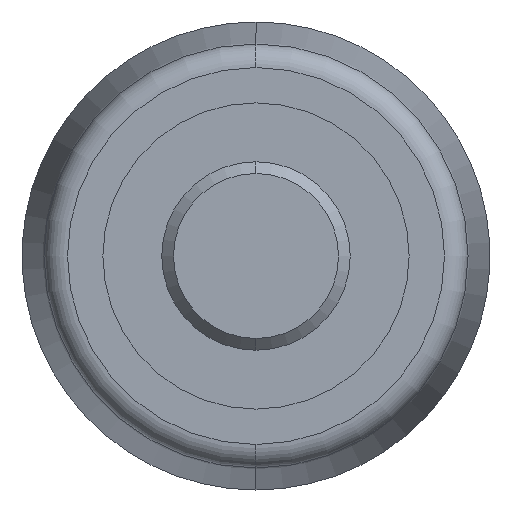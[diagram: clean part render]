
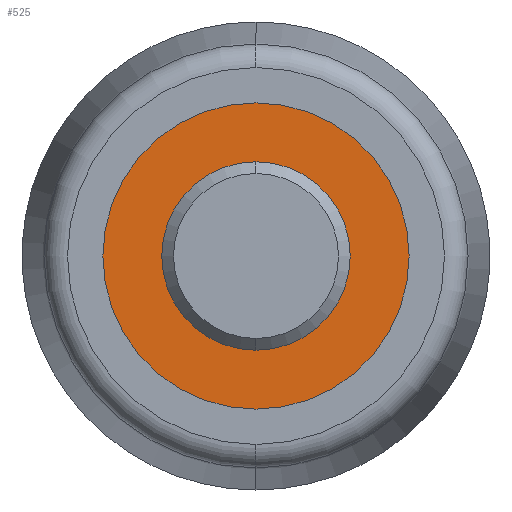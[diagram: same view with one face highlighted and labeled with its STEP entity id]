
A CAD part, left-side view. The second image highlights one B-rep face of the part: STEP entity #525.
In plain terms, the highlighted planar face has unit normal (-1, 0, 0).
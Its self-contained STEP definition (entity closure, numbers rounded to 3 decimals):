
#6 = EDGE_CURVE ( 'NONE', #586, #71, #31, .T. ) ;
#24 = CARTESIAN_POINT ( 'NONE',  ( -6., 0., 0. ) ) ;
#31 = CIRCLE ( 'NONE', #662, 6.5 ) ;
#44 = DIRECTION ( 'NONE',  ( 0., 0., -1. ) ) ;
#48 = DIRECTION ( 'NONE',  ( 0., 0., -1. ) ) ;
#71 = VERTEX_POINT ( 'NONE', #84 ) ;
#83 = AXIS2_PLACEMENT_3D ( 'NONE', #456, #196, #44 ) ;
#84 = CARTESIAN_POINT ( 'NONE',  ( -6., 0., -6.5 ) ) ;
#86 = ORIENTED_EDGE ( 'NONE', *, *, #562, .T. ) ;
#87 = DIRECTION ( 'NONE',  ( 0., 0., -1. ) ) ;
#92 = EDGE_LOOP ( 'NONE', ( #86, #573 ) ) ;
#117 = AXIS2_PLACEMENT_3D ( 'NONE', #560, #327, #386 ) ;
#196 = DIRECTION ( 'NONE',  ( 1., 0., 0. ) ) ;
#202 = EDGE_LOOP ( 'NONE', ( #447, #441 ) ) ;
#223 = CARTESIAN_POINT ( 'NONE',  ( -6., 0., 4. ) ) ;
#224 = DIRECTION ( 'NONE',  ( 0., 0., 1. ) ) ;
#256 = DIRECTION ( 'NONE',  ( 1., 0., 0. ) ) ;
#269 = DIRECTION ( 'NONE',  ( -1., 0., 0. ) ) ;
#275 = EDGE_CURVE ( 'NONE', #71, #586, #658, .T. ) ;
#310 = CARTESIAN_POINT ( 'NONE',  ( -6., 0., 0. ) ) ;
#327 = DIRECTION ( 'NONE',  ( 1., 0., 0. ) ) ;
#386 = DIRECTION ( 'NONE',  ( 0., 0., -1. ) ) ;
#388 = PLANE ( 'NONE',  #490 ) ;
#426 = CARTESIAN_POINT ( 'NONE',  ( -6., 0., -6.5 ) ) ;
#441 = ORIENTED_EDGE ( 'NONE', *, *, #6, .F. ) ;
#447 = ORIENTED_EDGE ( 'NONE', *, *, #275, .F. ) ;
#456 = CARTESIAN_POINT ( 'NONE',  ( -6., 0., 0. ) ) ;
#462 = VERTEX_POINT ( 'NONE', #701 ) ;
#471 = DIRECTION ( 'NONE',  ( 1., 0., 0. ) ) ;
#486 = FACE_BOUND ( 'NONE', #92, .T. ) ;
#490 = AXIS2_PLACEMENT_3D ( 'NONE', #426, #269, #224 ) ;
#525 = ADVANCED_FACE ( 'NONE', ( #486, #551 ), #388, .T. ) ;
#536 = CARTESIAN_POINT ( 'NONE',  ( -6., 0., 6.5 ) ) ;
#545 = AXIS2_PLACEMENT_3D ( 'NONE', #24, #471, #87 ) ;
#551 = FACE_OUTER_BOUND ( 'NONE', #202, .T. ) ;
#560 = CARTESIAN_POINT ( 'NONE',  ( -6., 0., 0. ) ) ;
#562 = EDGE_CURVE ( 'NONE', #462, #671, #699, .T. ) ;
#573 = ORIENTED_EDGE ( 'NONE', *, *, #720, .T. ) ;
#586 = VERTEX_POINT ( 'NONE', #536 ) ;
#658 = CIRCLE ( 'NONE', #545, 6.5 ) ;
#662 = AXIS2_PLACEMENT_3D ( 'NONE', #310, #256, #48 ) ;
#671 = VERTEX_POINT ( 'NONE', #223 ) ;
#699 = CIRCLE ( 'NONE', #83, 4. ) ;
#701 = CARTESIAN_POINT ( 'NONE',  ( -6., 0., -4. ) ) ;
#720 = EDGE_CURVE ( 'NONE', #671, #462, #723, .T. ) ;
#723 = CIRCLE ( 'NONE', #117, 4. ) ;
